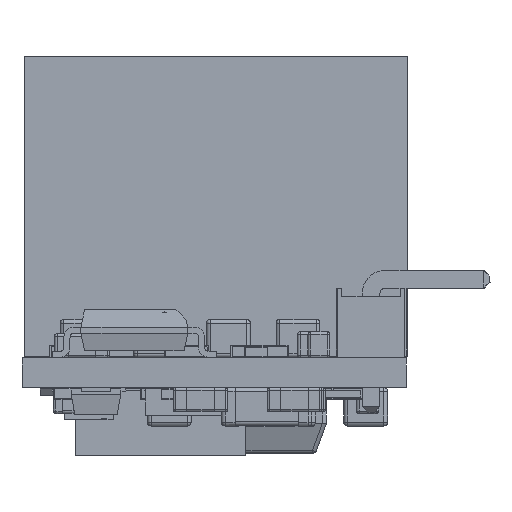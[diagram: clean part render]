
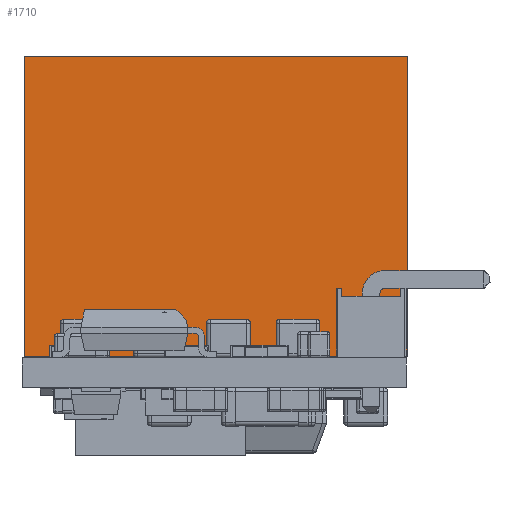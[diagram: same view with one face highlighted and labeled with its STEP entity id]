
A CAD part, left-side view. The second image highlights one B-rep face of the part: STEP entity #1710.
In plain terms, the highlighted planar face has unit normal (-1, 0, 0).
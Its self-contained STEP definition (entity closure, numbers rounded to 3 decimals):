
#1584=CARTESIAN_POINT('Vertex',(-6.985,-6.985,0.)) ;
#1600=CARTESIAN_POINT('Vertex',(-6.985,-6.985,10.955)) ;
#1603=CARTESIAN_POINT('Line Origine',(-6.985,-6.985,5.477)) ;
#1620=CARTESIAN_POINT('Line Origine',(-6.985,0.,0.)) ;
#1624=CARTESIAN_POINT('Vertex',(-6.985,6.985,0.)) ;
#1679=CARTESIAN_POINT('Vertex',(-6.985,6.985,10.955)) ;
#1682=CARTESIAN_POINT('Line Origine',(-6.985,0.,10.955)) ;
#1694=CARTESIAN_POINT('Axis2P3D Location',(-6.985,6.985,0.)) ;
#1699=CARTESIAN_POINT('Line Origine',(-6.985,6.985,5.477)) ;
#1604=DIRECTION('Vector Direction',(0.,0.,1.)) ;
#1621=DIRECTION('Vector Direction',(0.,-1.,0.)) ;
#1683=DIRECTION('Vector Direction',(0.,-1.,0.)) ;
#1695=DIRECTION('Axis2P3D Direction',(1.,0.,0.)) ;
#1696=DIRECTION('Axis2P3D XDirection',(0.,-1.,0.)) ;
#1700=DIRECTION('Vector Direction',(0.,0.,1.)) ;
#1697=AXIS2_PLACEMENT_3D('Plane Axis2P3D',#1694,#1695,#1696) ;
#1705=ORIENTED_EDGE('',*,*,#1626,.T.) ;
#1706=ORIENTED_EDGE('',*,*,#1607,.T.) ;
#1707=ORIENTED_EDGE('',*,*,#1686,.F.) ;
#1708=ORIENTED_EDGE('',*,*,#1703,.F.) ;
#1605=VECTOR('Line Direction',#1604,1.) ;
#1622=VECTOR('Line Direction',#1621,1.) ;
#1684=VECTOR('Line Direction',#1683,1.) ;
#1701=VECTOR('Line Direction',#1700,1.) ;
#1710=ADVANCED_FACE('MANIFOLD_SOLID_BREP #35274',(#1709),#1698,.F.) ;
#1607=EDGE_CURVE('',#1585,#1601,#1606,.T.) ;
#1626=EDGE_CURVE('',#1625,#1585,#1623,.T.) ;
#1686=EDGE_CURVE('',#1680,#1601,#1685,.T.) ;
#1703=EDGE_CURVE('',#1625,#1680,#1702,.T.) ;
#1704=EDGE_LOOP('',(#1705,#1706,#1707,#1708)) ;
#1709=FACE_OUTER_BOUND('',#1704,.T.) ;
#1606=LINE('Line',#1603,#1605) ;
#1623=LINE('Line',#1620,#1622) ;
#1685=LINE('Line',#1682,#1684) ;
#1702=LINE('Line',#1699,#1701) ;
#1698=PLANE('',#1697) ;
#1585=VERTEX_POINT('',#1584) ;
#1601=VERTEX_POINT('',#1600) ;
#1625=VERTEX_POINT('',#1624) ;
#1680=VERTEX_POINT('',#1679) ;
